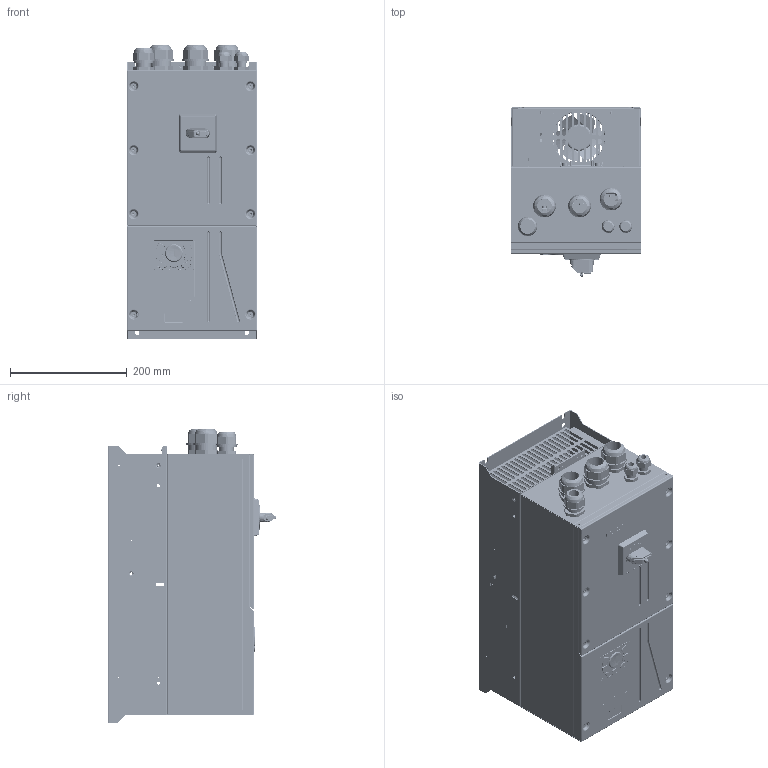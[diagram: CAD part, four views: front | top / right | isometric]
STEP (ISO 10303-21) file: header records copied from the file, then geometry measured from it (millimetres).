
FILE_DESCRIPTION((''),'2;1');
FILE_NAME('GD350-015G-45-AS_ASM_1_ASM','2021-08-24T14:01:06',('Administrator'),(''),'CREO PARAMETRIC BY PTC INC, 2019080','CREO PARAMETRIC BY PTC INC, 2019080','');
FILE_SCHEMA(('CONFIG_CONTROL_DESIGN'));
Products named in the file (127): 80310618_1; ZS-M5-ZC_1; YMD-55-0D8-SL_1; 80310618_ASM_1_ASM; 80483104_1; S-M4-ZC_1; BSO-M4-16-ZC_1; 80483104_ASM_1_ASM; 80483105_1; 80483105_ASM_1_ASM; 80386884_1; 80386884_ASM_1_ASM; GB12617_4_4X10_SL_1; 61210531_ASM_1_ASM; 61210531SY_1; 61210531SY_ASM_1_ASM; 80340249_1; TPR-4-12-SL_1; BS-M4-10_1; BSO-M4-14-SL_1; BSO-M4-12R5-SL_1; BSO-3D5M3-6-ZC_1; 80340249_ASM_1_ASM; 80383278_1; 80385378_1; 61061672_ASM_1_ASM; 80340250_1; FH-M3-10-ZC_1; 80340250_ASM_1_ASM; 80440867_1; 78400144_1; 78400222_1; 61761444_ASM_1_ASM; 61761444SY_1; 61761444SY_ASM_1_ASM; 80340248_1; 80340248_ASM_1_ASM; 80386885_1; 61761443_ASM_1_ASM; 61761443SY_1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
Assembly tree (249 placements, depth 6):
  GD350-015G-45-AS_ASM_1_ASM
    41060161_ASM_1_ASM
      61210531SY_ASM_1_ASM
        61210531_ASM_1_ASM
          80310618_ASM_1_ASM
            80310618_1
            ZS-M5-ZC_1  x2
            YMD-55-0D8-SL_1  x2
          80483104_ASM_1_ASM
            80483104_1
            S-M4-ZC_1  x4
            ZS-M5-ZC_1  x2
            BSO-M4-16-ZC_1
          80483105_ASM_1_ASM
            80483105_1
            YMD-55-0D8-SL_1  x2
          80386884_ASM_1_ASM
            80386884_1
            ZS-M5-ZC_1  x2
          GB12617_4_4X10_SL_1  x11
        61210531SY_1
      61061672_ASM_1_ASM
        80340249_ASM_1_ASM
          80340249_1
          YMD-55-0D8-SL_1  x3
          TPR-4-12-SL_1  x2
          BS-M4-10_1  x6
          BSO-M4-14-SL_1  x2
          BSO-M4-12R5-SL_1  x8
          BSO-M4-16-ZC_1  x6
          BSO-3D5M3-6-ZC_1  x10
        80383278_1
        80385378_1  x2
      61761444SY_ASM_1_ASM
        61761444_ASM_1_ASM
          80340250_ASM_1_ASM
            80340250_1
            FH-M3-10-ZC_1  x6
            YMD-55-0D8-SL_1  x4
          80440867_1  x4
          78400144_1  x2
          78400222_1  x2
        61761444SY_1
      61761443SY_ASM_1_ASM
        61761443_ASM_1_ASM
          80340248_ASM_1_ASM
            80340248_1
            YMD-55-0D8-SL_1  x2
          80386885_1  x2
        61761443SY_1
      86870126_1
    40840376_ASM_1
    GD350-015G-45-AS-ES_ASM_1_ASM
      PCB_FACILITY-15KW_ASM_1_ASM
        PCB_FACILITY-15KW_1
        PCB_TERMINAL_01_1_ASM  x2
          PCB_TERMINAL_01_1_1
          PCB_TERMINAL_01_1_2
          PCB_TERMINAL_01_1_3
      PCB_FACILITY-7R5KW_ASM_1_ASM
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Bounding box: 223 x 289.4 x 503.75 mm (x, y, z)
Volume: 2358807.7 mm3; surface area: 2294551.6 mm2
Topology: 224 solids, 264 shells, 21949 faces, 58262 edges, 37685 vertices
Faces by surface type: plane 14515, cylinder 5300, cone 1103, torus 553, bspline 359, extrusion 47, sphere 44, revolution 28
Entity records: 368330 total; most frequent: CARTESIAN_POINT 86065, DIRECTION 59288, ORIENTED_EDGE 57024, EDGE_CURVE 28530, AXIS2_PLACEMENT_3D 20817, VERTEX_POINT 18380, VECTOR 17626, LINE 17579
